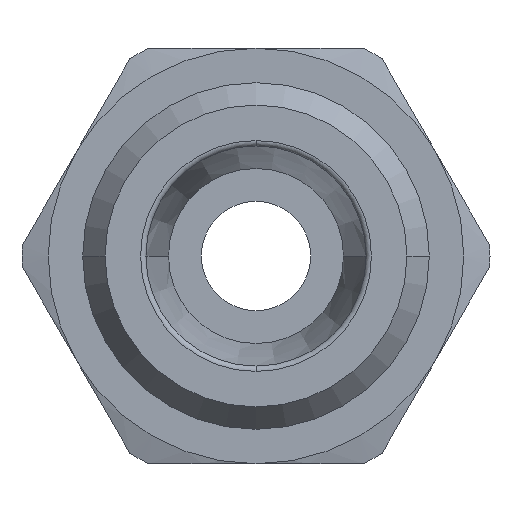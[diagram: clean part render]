
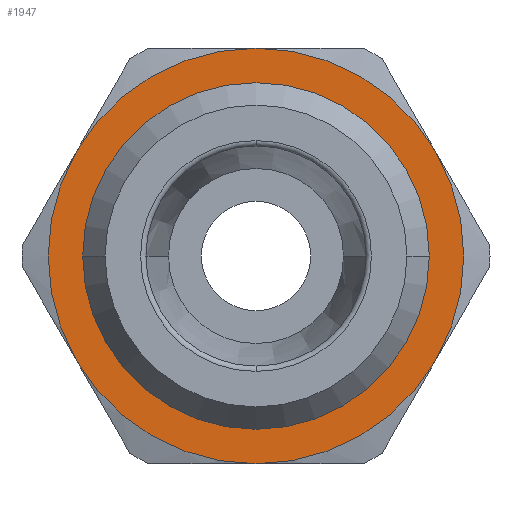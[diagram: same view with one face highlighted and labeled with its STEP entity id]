
A CAD part, left-side view. The second image highlights one B-rep face of the part: STEP entity #1947.
In plain terms, the highlighted planar face has unit normal (-1, 0, 0) as drawn and (0, 0, 1) by its records, which use the part's own axes.
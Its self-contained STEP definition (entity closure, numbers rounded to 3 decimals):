
#857=CARTESIAN_POINT('',(-7.8,0.,4.));
#858=VERTEX_POINT('',#857);
#884=CARTESIAN_POINT('',(7.8,0.,4.));
#885=VERTEX_POINT('',#884);
#893=CARTESIAN_POINT('',(0.,0.,4.0));
#894=DIRECTION('',(0.0,0.0,1.0));
#895=DIRECTION('',(-1.0,0.0,0.0));
#896=AXIS2_PLACEMENT_3D('',#893,#894,#895);
#897=CIRCLE('',#896,7.8);
#898=EDGE_CURVE('',#885,#858,#897,.T.);
#1827=CARTESIAN_POINT('',(0.,-7.8,4.));
#1828=VERTEX_POINT('',#1827);
#1829=CARTESIAN_POINT('',(0.,0.,4.0));
#1830=DIRECTION('',(0.0,0.0,1.0));
#1831=DIRECTION('',(-1.0,0.0,0.0));
#1832=AXIS2_PLACEMENT_3D('',#1829,#1830,#1831);
#1833=CIRCLE('',#1832,7.8);
#1834=EDGE_CURVE('',#858,#1828,#1833,.T.);
#1836=CARTESIAN_POINT('',(0.,0.,4.0));
#1837=DIRECTION('',(0.0,0.0,1.0));
#1838=DIRECTION('',(-1.0,0.0,0.0));
#1839=AXIS2_PLACEMENT_3D('',#1836,#1837,#1838);
#1840=CIRCLE('',#1839,7.8);
#1841=EDGE_CURVE('',#1828,#885,#1840,.T.);
#1881=CARTESIAN_POINT('',(0.,0.,4.0));
#1882=DIRECTION('',(0.0,0.0,1.0));
#1883=DIRECTION('',(1.0,0.0,0.0));
#1884=AXIS2_PLACEMENT_3D('',#1881,#1882,#1883);
#1885=PLANE('',#1884);
#1886=CARTESIAN_POINT('',(4.75,-8.227,4.));
#1887=VERTEX_POINT('',#1886);
#1888=CARTESIAN_POINT('',(9.5,0.0,4.));
#1889=VERTEX_POINT('',#1888);
#1890=CARTESIAN_POINT('',(0.,0.0,4.0));
#1891=DIRECTION('',(0.0,0.0,1.0));
#1892=DIRECTION('',(1.0,0.0,0.0));
#1893=AXIS2_PLACEMENT_3D('',#1890,#1891,#1892);
#1894=CIRCLE('',#1893,9.5);
#1895=EDGE_CURVE('',#1887,#1889,#1894,.T.);
#1896=ORIENTED_EDGE('',*,*,#1895,.T.);
#1897=CARTESIAN_POINT('',(4.75,8.227,4.));
#1898=VERTEX_POINT('',#1897);
#1899=CARTESIAN_POINT('',(0.,0.0,4.0));
#1900=DIRECTION('',(0.0,0.0,1.0));
#1901=DIRECTION('',(1.0,0.0,0.0));
#1902=AXIS2_PLACEMENT_3D('',#1899,#1900,#1901);
#1903=CIRCLE('',#1902,9.5);
#1904=EDGE_CURVE('',#1889,#1898,#1903,.T.);
#1905=ORIENTED_EDGE('',*,*,#1904,.T.);
#1906=CARTESIAN_POINT('',(-4.75,8.227,4.));
#1907=VERTEX_POINT('',#1906);
#1908=CARTESIAN_POINT('',(0.,0.0,4.0));
#1909=DIRECTION('',(0.0,0.0,1.0));
#1910=DIRECTION('',(1.0,0.0,0.0));
#1911=AXIS2_PLACEMENT_3D('',#1908,#1909,#1910);
#1912=CIRCLE('',#1911,9.5);
#1913=EDGE_CURVE('',#1898,#1907,#1912,.T.);
#1914=ORIENTED_EDGE('',*,*,#1913,.T.);
#1915=CARTESIAN_POINT('',(-9.5,0.,4.));
#1916=VERTEX_POINT('',#1915);
#1917=CARTESIAN_POINT('',(0.,0.0,4.0));
#1918=DIRECTION('',(0.0,0.0,1.0));
#1919=DIRECTION('',(1.0,0.0,0.0));
#1920=AXIS2_PLACEMENT_3D('',#1917,#1918,#1919);
#1921=CIRCLE('',#1920,9.5);
#1922=EDGE_CURVE('',#1907,#1916,#1921,.T.);
#1923=ORIENTED_EDGE('',*,*,#1922,.T.);
#1924=CARTESIAN_POINT('',(-4.75,-8.227,4.));
#1925=VERTEX_POINT('',#1924);
#1926=CARTESIAN_POINT('',(0.,0.0,4.0));
#1927=DIRECTION('',(0.0,0.0,1.0));
#1928=DIRECTION('',(1.0,0.0,0.0));
#1929=AXIS2_PLACEMENT_3D('',#1926,#1927,#1928);
#1930=CIRCLE('',#1929,9.5);
#1931=EDGE_CURVE('',#1916,#1925,#1930,.T.);
#1932=ORIENTED_EDGE('',*,*,#1931,.T.);
#1933=CARTESIAN_POINT('',(0.,0.0,4.0));
#1934=DIRECTION('',(0.0,0.0,1.0));
#1935=DIRECTION('',(1.0,0.0,0.0));
#1936=AXIS2_PLACEMENT_3D('',#1933,#1934,#1935);
#1937=CIRCLE('',#1936,9.5);
#1938=EDGE_CURVE('',#1925,#1887,#1937,.T.);
#1939=ORIENTED_EDGE('',*,*,#1938,.T.);
#1940=EDGE_LOOP('',(#1896,#1905,#1914,#1923,#1932,#1939));
#1941=FACE_OUTER_BOUND('',#1940,.T.);
#1942=ORIENTED_EDGE('',*,*,#1841,.F.);
#1943=ORIENTED_EDGE('',*,*,#1834,.F.);
#1944=ORIENTED_EDGE('',*,*,#898,.F.);
#1945=EDGE_LOOP('',(#1942,#1943,#1944));
#1946=FACE_BOUND('',#1945,.T.);
#1947=ADVANCED_FACE('',(#1941,#1946),#1885,.T.);
